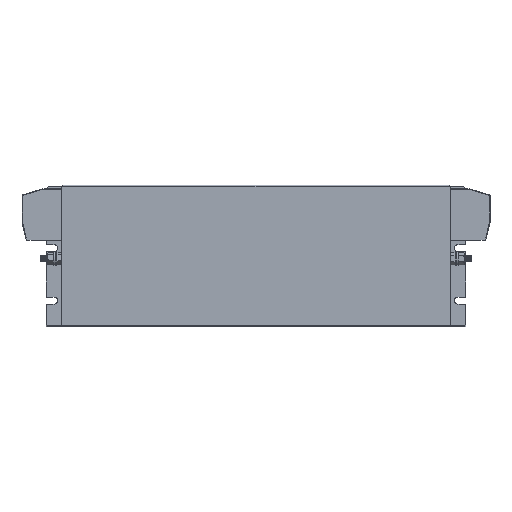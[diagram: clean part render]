
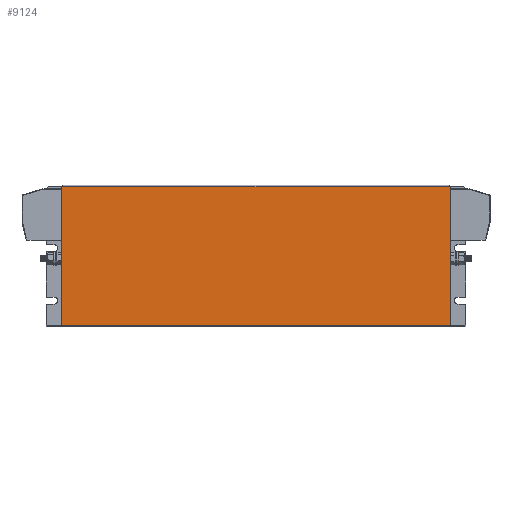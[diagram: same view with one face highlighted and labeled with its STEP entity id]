
A CAD part, top view. The second image highlights one B-rep face of the part: STEP entity #9124.
In plain terms, the highlighted planar face has unit normal (0, 0, 1).
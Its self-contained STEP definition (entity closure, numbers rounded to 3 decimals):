
#714 = VECTOR ( 'NONE', #9356, 1000. ) ;
#883 = VECTOR ( 'NONE', #2261, 1000. ) ;
#1319 = CARTESIAN_POINT ( 'NONE',  ( 385., 133.5, 1.5 ) ) ;
#1329 = LINE ( 'NONE', #29702, #8235 ) ;
#1332 = CARTESIAN_POINT ( 'NONE',  ( 15., 133.5, 1.5 ) ) ;
#2056 = CARTESIAN_POINT ( 'NONE',  ( 385., 135., 1.5 ) ) ;
#2261 = DIRECTION ( 'NONE',  ( 0., -1., 0. ) ) ;
#2738 = VERTEX_POINT ( 'NONE', #1319 ) ;
#3056 = LINE ( 'NONE', #2056, #883 ) ;
#4656 = CARTESIAN_POINT ( 'NONE',  ( 15., 135., 1.5 ) ) ;
#5365 = ORIENTED_EDGE ( 'NONE', *, *, #27846, .T. ) ;
#6760 = ORIENTED_EDGE ( 'NONE', *, *, #15074, .F. ) ;
#6999 = DIRECTION ( 'NONE',  ( 0., 0., -1. ) ) ;
#7147 = CARTESIAN_POINT ( 'NONE',  ( 15., 1.5, 1.5 ) ) ;
#8235 = VECTOR ( 'NONE', #9091, 1000. ) ;
#8345 = DIRECTION ( 'NONE',  ( -1., 0., 0. ) ) ;
#9091 = DIRECTION ( 'NONE',  ( 1., 0., 0. ) ) ;
#9124 = ADVANCED_FACE ( 'NONE', ( #15502 ), #20658, .F. ) ;
#9186 = EDGE_CURVE ( 'NONE', #13081, #10990, #22294, .T. ) ;
#9356 = DIRECTION ( 'NONE',  ( 0., -1., 0. ) ) ;
#10003 = VECTOR ( 'NONE', #8345, 1000. ) ;
#10468 = EDGE_LOOP ( 'NONE', ( #6760, #22969, #22627, #5365 ) ) ;
#10990 = VERTEX_POINT ( 'NONE', #7147 ) ;
#12998 = AXIS2_PLACEMENT_3D ( 'NONE', #4656, #6999, #27174 ) ;
#13081 = VERTEX_POINT ( 'NONE', #20067 ) ;
#15074 = EDGE_CURVE ( 'NONE', #2738, #27733, #3056, .T. ) ;
#15502 = FACE_OUTER_BOUND ( 'NONE', #10468, .T. ) ;
#20067 = CARTESIAN_POINT ( 'NONE',  ( 15., 133.5, 1.5 ) ) ;
#20658 = PLANE ( 'NONE',  #12998 ) ;
#20956 = CARTESIAN_POINT ( 'NONE',  ( 15., 135., 1.5 ) ) ;
#21805 = LINE ( 'NONE', #1332, #10003 ) ;
#22183 = CARTESIAN_POINT ( 'NONE',  ( 385., 1.5, 1.5 ) ) ;
#22294 = LINE ( 'NONE', #20956, #714 ) ;
#22627 = ORIENTED_EDGE ( 'NONE', *, *, #9186, .T. ) ;
#22969 = ORIENTED_EDGE ( 'NONE', *, *, #28175, .T. ) ;
#27174 = DIRECTION ( 'NONE',  ( -1., 0., 0. ) ) ;
#27733 = VERTEX_POINT ( 'NONE', #22183 ) ;
#27846 = EDGE_CURVE ( 'NONE', #10990, #27733, #1329, .T. ) ;
#28175 = EDGE_CURVE ( 'NONE', #2738, #13081, #21805, .T. ) ;
#29702 = CARTESIAN_POINT ( 'NONE',  ( 15., 1.5, 1.5 ) ) ;
